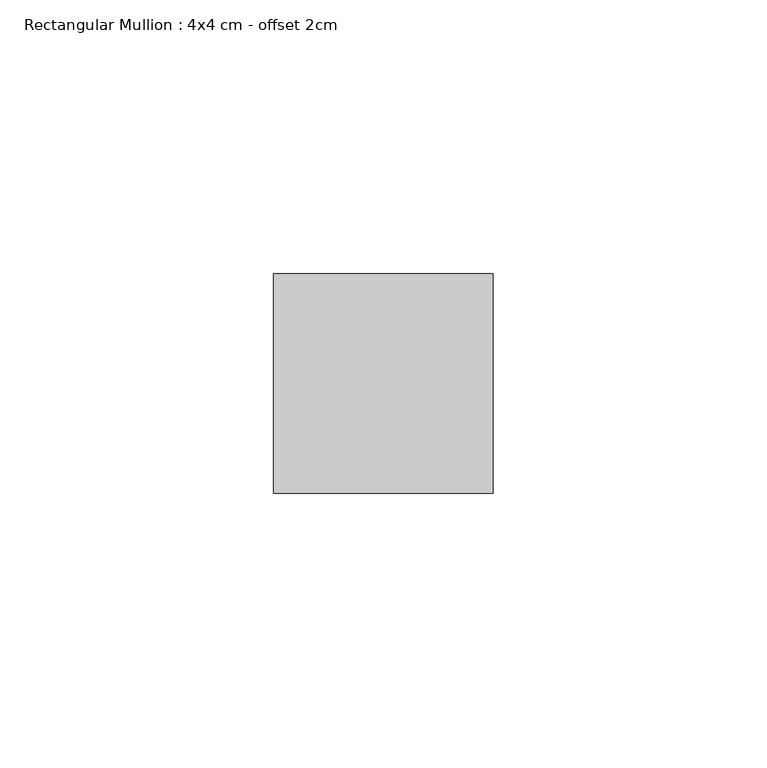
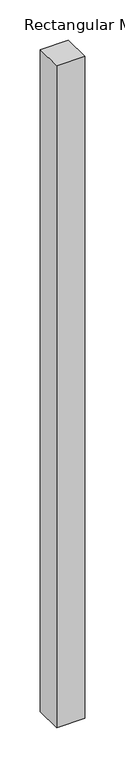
"""IFC4 building model written with IfcOpenShell, lengths in millimetres: member geometry, Rectangular Mullion : 4x4 cm - offset 2cm."""

from ifc_helpers import new_model, si_unit, frame, origin, place, context, project, spatial, polyline, outline, extrude, source, transform, mapped, element, save


def rectangular_mullion_4x4_cm_offset_2cm_cc3df301(model_context):
    return source(origin(), model_context, "Body", "SweptSolid", [
        extrude(outline(polyline([(0.0, 0.0), (0.0, -40.0), (-40.0, -40.0), (-40.0, 0.0), (0.0, 0.0)])), frame((0.0, 0.0, -1000.0), z_axis=(0.0, 0.0, 1.0), x_axis=(1.0, 0.0, 0.0)), (0.0, 0.0, 1.0), 1000.0),
    ])


if __name__ == "__main__":
    model = new_model("IFC4")
    model_context = context("Model", 3, world=origin())
    ifc_project = project(units=[si_unit("LENGTHUNIT", "METRE", prefix="MILLI")], contexts=[model_context])
    site = spatial("IfcSite", under=ifc_project)
    building = spatial("IfcBuilding", under=site)
    placement = place(None, origin())
    rectangular_mullion_4x4_cm_offset_2cm_shape = rectangular_mullion_4x4_cm_offset_2cm_cc3df301(model_context)
    element("IfcMember", 1, ObjectType="Rectangular Mullion : 4x4 cm - offset 2cm", at=placement, inside=building, context=model_context, shape_type="MappedRepresentation", body=[
        mapped(rectangular_mullion_4x4_cm_offset_2cm_shape, transform((0.0, 0.0, 0.0), x_axis=(1.0, 0.0, 0.0), y_axis=(0.0, 1.0, 0.0), z_axis=(0.0, 0.0, 1.0))),
    ])
    save(model, "model.ifc")
